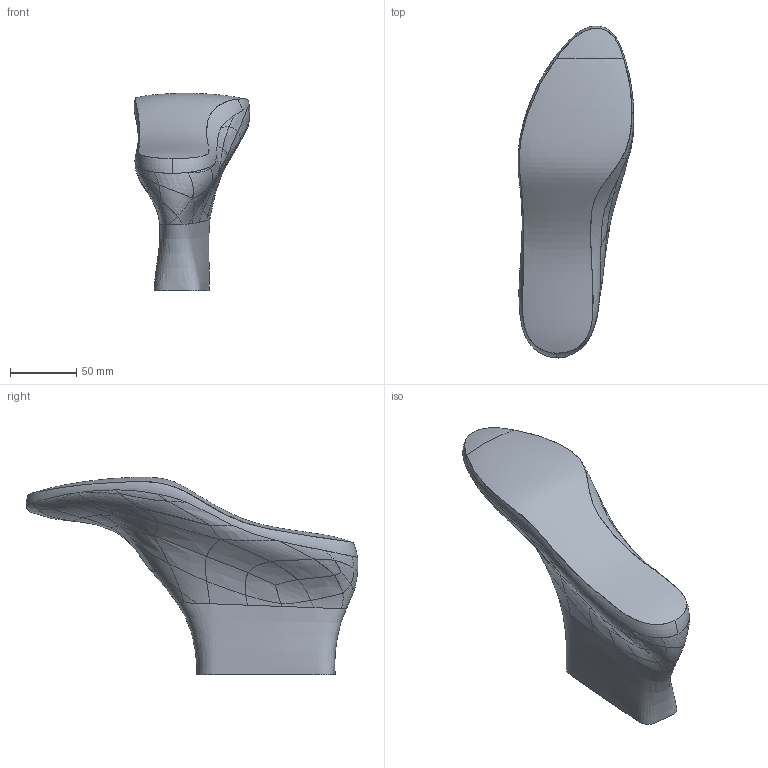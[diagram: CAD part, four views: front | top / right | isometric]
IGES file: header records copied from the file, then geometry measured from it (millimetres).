
Global section: file name: 39-new; native system: Autodesk Inventor 2017; preprocessor: unknown; date: 20180221.083722; units: millimetre
Bounding box: 87.42 x 250.44 x 148.92 mm (x, y, z)
Surface area: 66681.4 mm2 (no closed solid volume)
Topology: 0 solids, 0 shells, 116 faces, 1192 edges, 1191 vertices
Faces by surface type: bspline 116
